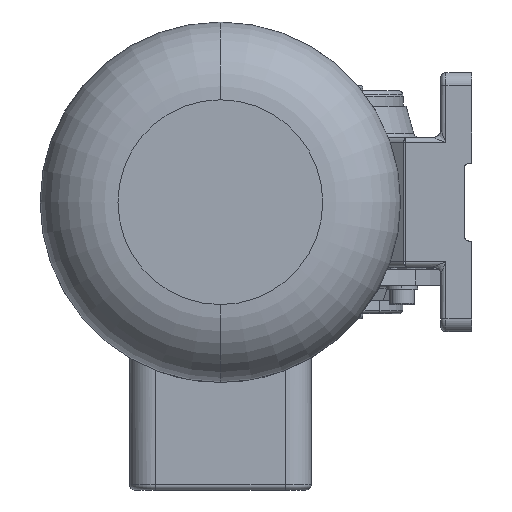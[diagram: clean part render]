
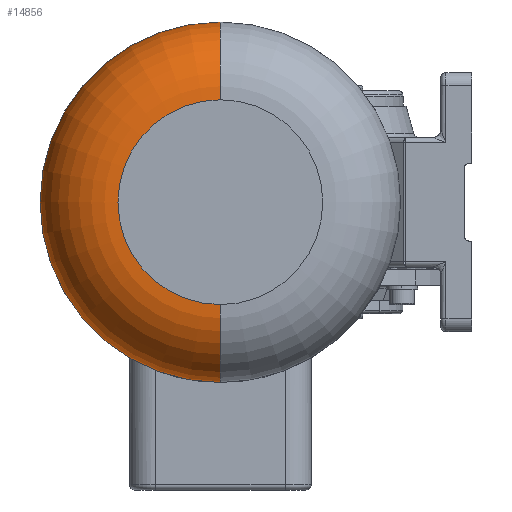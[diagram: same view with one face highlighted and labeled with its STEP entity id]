
A CAD part, left-side view. The second image highlights one B-rep face of the part: STEP entity #14856.
In plain terms, the highlighted toroidal (fillet/blend) face has major radius 39.5 mm and minor radius 30 mm.
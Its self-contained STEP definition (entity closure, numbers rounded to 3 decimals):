
#835 = EDGE_CURVE ( 'NONE', #14961, #18188, #7881, .T. ) ;
#1553 = DIRECTION ( 'NONE',  ( 0., 0., 1. ) ) ;
#1712 = AXIS2_PLACEMENT_3D ( 'NONE', #7908, #18509, #8131 ) ;
#1770 = CARTESIAN_POINT ( 'NONE',  ( -329.464, 51.084, -69.5 ) ) ;
#1880 = DIRECTION ( 'NONE',  ( 0., 1., 0. ) ) ;
#2004 = CARTESIAN_POINT ( 'NONE',  ( -359.464, 51.084, -39.5 ) ) ;
#2137 = AXIS2_PLACEMENT_3D ( 'NONE', #6750, #2847, #15649 ) ;
#2338 = CARTESIAN_POINT ( 'NONE',  ( -329.464, 51.084, -39.5 ) ) ;
#2847 = DIRECTION ( 'NONE',  ( -1., 0., 0. ) ) ;
#3086 = ORIENTED_EDGE ( 'NONE', *, *, #835, .F. ) ;
#3283 = AXIS2_PLACEMENT_3D ( 'NONE', #18912, #1880, #1553 ) ;
#3566 = DIRECTION ( 'NONE',  ( 0., 0., -1. ) ) ;
#4002 = CIRCLE ( 'NONE', #3283, 30. ) ;
#4066 = ORIENTED_EDGE ( 'NONE', *, *, #13577, .F. ) ;
#5391 = CIRCLE ( 'NONE', #11936, 30. ) ;
#6592 = EDGE_LOOP ( 'NONE', ( #3086, #9510, #4066, #18055 ) ) ;
#6750 = CARTESIAN_POINT ( 'NONE',  ( -359.464, 51.084, 0. ) ) ;
#7881 = CIRCLE ( 'NONE', #2137, 39.5 ) ;
#7908 = CARTESIAN_POINT ( 'NONE',  ( -329.464, 51.084, 0. ) ) ;
#8131 = DIRECTION ( 'NONE',  ( 0., 0., -1. ) ) ;
#8370 = CIRCLE ( 'NONE', #13108, 69.5 ) ;
#8543 = TOROIDAL_SURFACE ( 'NONE', #1712, 39.5, 30. ) ;
#9510 = ORIENTED_EDGE ( 'NONE', *, *, #18040, .T. ) ;
#9614 = FACE_OUTER_BOUND ( 'NONE', #6592, .T. ) ;
#10012 = CARTESIAN_POINT ( 'NONE',  ( -329.464, 51.084, 0. ) ) ;
#11262 = VERTEX_POINT ( 'NONE', #1770 ) ;
#11936 = AXIS2_PLACEMENT_3D ( 'NONE', #2338, #21155, #3566 ) ;
#12236 = CARTESIAN_POINT ( 'NONE',  ( -359.464, 51.084, 39.5 ) ) ;
#13082 = DIRECTION ( 'NONE',  ( 1., 0., 0. ) ) ;
#13108 = AXIS2_PLACEMENT_3D ( 'NONE', #10012, #13082, #18673 ) ;
#13577 = EDGE_CURVE ( 'NONE', #11262, #15529, #8370, .T. ) ;
#14856 = ADVANCED_FACE ( 'NONE', ( #9614 ), #8543, .T. ) ;
#14961 = VERTEX_POINT ( 'NONE', #12236 ) ;
#15465 = CARTESIAN_POINT ( 'NONE',  ( -329.464, 51.084, 69.5 ) ) ;
#15529 = VERTEX_POINT ( 'NONE', #15465 ) ;
#15649 = DIRECTION ( 'NONE',  ( 0., 0., -1. ) ) ;
#17304 = EDGE_CURVE ( 'NONE', #18188, #11262, #5391, .T. ) ;
#18040 = EDGE_CURVE ( 'NONE', #14961, #15529, #4002, .T. ) ;
#18055 = ORIENTED_EDGE ( 'NONE', *, *, #17304, .F. ) ;
#18188 = VERTEX_POINT ( 'NONE', #2004 ) ;
#18509 = DIRECTION ( 'NONE',  ( 1., 0., 0. ) ) ;
#18673 = DIRECTION ( 'NONE',  ( 0., 0., -1. ) ) ;
#18912 = CARTESIAN_POINT ( 'NONE',  ( -329.464, 51.084, 39.5 ) ) ;
#21155 = DIRECTION ( 'NONE',  ( 0., -1., 0. ) ) ;
